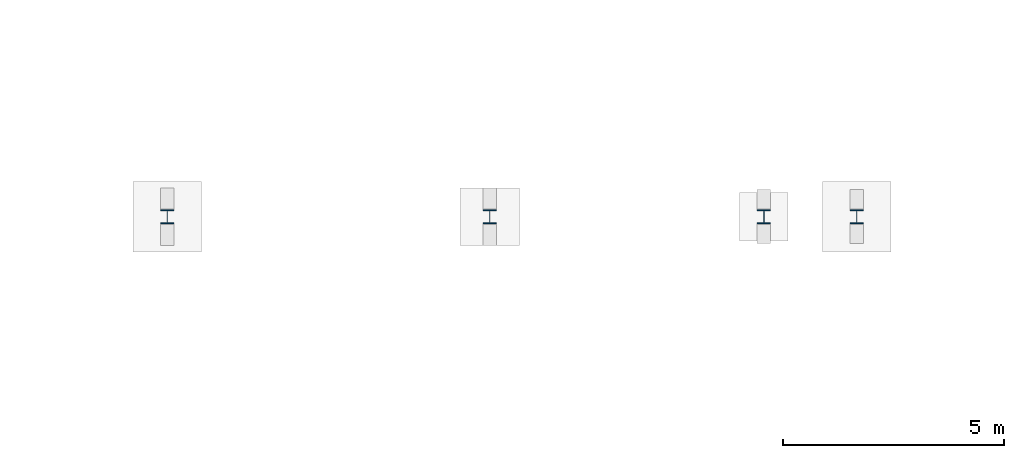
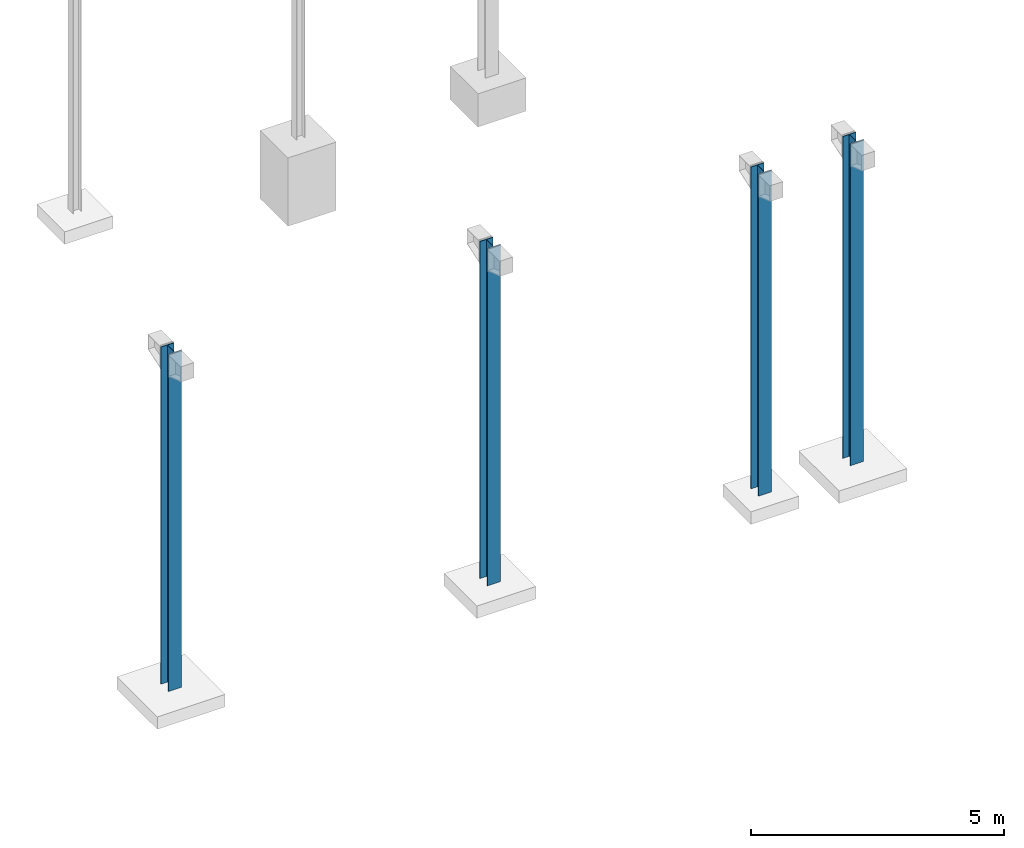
# One storey, part 39 of 59: 4 columns.
"""IFC2X3 building model written with IfcOpenShell, lengths in metres."""

import ifcopenshell
import ifcopenshell.guid

model = None  # the IFC model being written
_history = None  # IfcOwnerHistory: only IFC2X3 demands one
_inside = {}  # id of a spatial element -> (the spatial element, [elements in it])
_under = {}  # id of a project, library or spatial element -> (it, [spatial elements below it])
_declared = {}  # id of a project -> (the project, [libraries it declares])
_typed = {}  # id of a type object -> (the type object, [elements of that type])
_made_of = {}  # id of a material, layer set ... -> (it, [elements and type objects made of it])


def new_model(schema):
    """Start an empty IFC model of exactly this schema.

    Asked for "IFC4X3", IfcOpenShell would pick the latest addendum, in which some entities
    have other attributes; the version numbers below select the first issue.
    IFC2X3 requires an IfcOwnerHistory on every rooted entity: one is made here for all.
    """
    global model, _history
    if schema == "IFC4X3":
        model = ifcopenshell.file(schema_version=(4, 3, 0, 0))
    else:
        model = ifcopenshell.file(schema=schema)
    _inside.clear()
    _under.clear()
    _declared.clear()
    _typed.clear()
    _made_of.clear()
    _history = None
    if model.schema == "IFC2X3":
        org = make("IfcOrganization", Name="unknown")
        user = make(
            "IfcPersonAndOrganization",
            ThePerson=make("IfcPerson", FamilyName="unknown"),
            TheOrganization=org,
        )
        app = make(
            "IfcApplication",
            ApplicationDeveloper=org,
            Version="unknown",
            ApplicationFullName="unknown",
            ApplicationIdentifier="unknown",
        )
        _history = make(
            "IfcOwnerHistory",
            OwningUser=user,
            OwningApplication=app,
            ChangeAction="ADDED",
            CreationDate=0,
        )
    return model


def make(cls, **values):
    """One entity of the class cls with the attributes given. An attribute that is None is left unset."""
    return model.create_entity(
        cls, **{name: value for name, value in values.items() if value is not None}
    )


def entity(cls, *values):
    """Any entity or typed value of the class cls, its attributes in the order of the schema. None: left unset."""
    e = model.create_entity(cls)
    for i, value in enumerate(values):
        if value is not None:
            e[i] = value
    return e


def rooted(cls, **values):
    """An entity with a GlobalId (a new one), such as an element, a storey or a relation."""
    return make(cls, GlobalId=ifcopenshell.guid.new(), OwnerHistory=_history, **values)


def si_unit(unit_type, name, prefix=None):
    """IfcSIUnit, for example si_unit("LENGTHUNIT", "METRE", prefix="MILLI")."""
    return make("IfcSIUnit", UnitType=unit_type, Prefix=prefix, Name=name)


def converted_unit(unit_type, name, factor, base, dimensions=None, offset=None):
    """IfcConversionBasedUnit, such as the inch: factor (a typed value) times the base unit."""
    return make(
        "IfcConversionBasedUnit"
        if offset is None
        else "IfcConversionBasedUnitWithOffset",
        ConversionOffset=offset,
        Dimensions=None
        if dimensions is None
        else entity("IfcDimensionalExponents", *dimensions),
        UnitType=unit_type,
        Name=name,
        ConversionFactor=make(
            "IfcMeasureWithUnit", ValueComponent=factor, UnitComponent=base
        ),
    )


def derived_unit(unit_type, elements):
    """IfcDerivedUnit: a product of units, each with its exponent."""
    return make(
        "IfcDerivedUnit",
        Elements=[
            make("IfcDerivedUnitElement", Unit=unit, Exponent=power)
            for unit, power in elements
        ],
        UnitType=unit_type,
    )


def assignment(units):
    """IfcUnitAssignment: the units of a project."""
    return None if units is None else make("IfcUnitAssignment", Units=units)


def point(xyz):
    """IfcCartesianPoint."""
    return None if xyz is None else make("IfcCartesianPoint", Coordinates=xyz)


def direction(xyz):
    """IfcDirection."""
    return None if xyz is None else make("IfcDirection", DirectionRatios=xyz)


def frame(location, z_axis=None, x_axis=None):
    """IfcAxis2Placement3D, a coordinate frame: its origin and axes. An axis left out is left unset."""
    return make(
        "IfcAxis2Placement3D",
        Location=point(location),
        Axis=direction(z_axis),
        RefDirection=direction(x_axis),
    )


def origin():
    """The frame at (0, 0, 0) with its axes left unset."""
    return frame((0.0, 0.0, 0.0))


def origin_with_axes():
    """The frame at (0, 0, 0) with the z axis (0, 0, 1) and the x axis (1, 0, 0) written out."""
    return frame((0.0, 0.0, 0.0), z_axis=(0.0, 0.0, 1.0), x_axis=(1.0, 0.0, 0.0))


def place(relative_to, where):
    """IfcLocalPlacement: puts the frame where relative to a parent placement (None: the world)."""
    return make(
        "IfcLocalPlacement", PlacementRelTo=relative_to, RelativePlacement=where
    )


def context(
    kind, dimensions, precision=None, world=None, true_north=None, identifier=None
):
    """IfcGeometricRepresentationContext, for example the 3D "Model" context."""
    return make(
        "IfcGeometricRepresentationContext",
        ContextIdentifier=identifier,
        ContextType=kind,
        CoordinateSpaceDimension=dimensions,
        Precision=precision,
        WorldCoordinateSystem=world,
        TrueNorth=true_north,
    )


def subcontext(parent, identifier, kind, view, scale=None):
    """IfcGeometricRepresentationSubContext, for example "Body" below "Model"."""
    return make(
        "IfcGeometricRepresentationSubContext",
        ContextIdentifier=identifier,
        ContextType=kind,
        ParentContext=parent,
        TargetScale=scale,
        TargetView=view,
    )


def project(units=None, contexts=None):
    """IfcProject with its units and contexts."""
    return rooted(
        "IfcProject",
        Name="project",
        RepresentationContexts=contexts,
        UnitsInContext=assignment(units),
    )


def spatial(cls, under=None, at=None, **own):
    """A site, building, storey or space (cls), placed at a placement, below another one or the project."""
    s = rooted(cls, ObjectPlacement=at, **own)
    if under is not None:
        _under.setdefault(under.id(), (under, []))[1].append(s)
    return s


def polyline(points):
    """IfcPolyline through the points."""
    return make("IfcPolyline", Points=[point(p) for p in points])


def outline(outer, holes=None, kind="AREA"):
    """IfcArbitraryClosedProfileDef: a profile drawn as a closed curve; with holes, ...WithVoids."""
    if holes is None:
        return make("IfcArbitraryClosedProfileDef", ProfileType=kind, OuterCurve=outer)
    return make(
        "IfcArbitraryProfileDefWithVoids",
        ProfileType=kind,
        OuterCurve=outer,
        InnerCurves=holes,
    )


def extrude(swept, where, along, depth):
    """IfcExtrudedAreaSolid: the profile swept, set in the frame where, extruded along a direction by depth."""
    return make(
        "IfcExtrudedAreaSolid",
        SweptArea=swept,
        Position=where,
        ExtrudedDirection=direction(along),
        Depth=depth,
    )


def shape(context_of_items, identifier, shape_type, items):
    """IfcShapeRepresentation: the items that make up one representation, for example the "Body"."""
    return make(
        "IfcShapeRepresentation",
        ContextOfItems=context_of_items,
        RepresentationIdentifier=identifier,
        RepresentationType=shape_type,
        Items=items,
    )


def material(Name=None, Category=None):
    """IfcMaterial."""
    return make("IfcMaterial", Name=Name, Category=Category)


def made_of(thing, what):
    """Note that an element or type object is made of a material, layer set ...; save() writes the relation."""
    if what is not None:
        _made_of.setdefault(what.id(), (what, []))[1].append(thing)
    return thing


def element(
    cls,
    number,
    at=None,
    inside=None,
    cuts=None,
    type_object=None,
    material=None,
    context=None,
    identifier="Body",
    shape_type=None,
    held_by="IfcProductDefinitionShape",
    body=None,
    shapes=None,
    **own,
):
    """One element of the class cls, such as IfcWall. Its Tag is "e" and its number.

    at: its placement. inside: the storey or other place that contains it. cuts: it is an
    opening in that element (IfcRelVoidsElement). A single representation is given by context,
    identifier, shape_type and body (its items); several are given by shapes. held_by: the class
    of the entity that holds the representations. save() writes the other relations.
    """
    e = rooted(cls, Tag="e%d" % number, ObjectPlacement=at, **own)
    if body is not None:
        shapes = [shape(context, identifier, shape_type, body)]
    if shapes is not None:
        e.Representation = make(held_by, Representations=shapes)
    if inside is not None:
        _inside.setdefault(inside.id(), (inside, []))[1].append(e)
    if cuts is not None:
        rooted(
            "IfcRelVoidsElement", RelatingBuildingElement=cuts, RelatedOpeningElement=e
        )
    if type_object is not None:
        _typed.setdefault(type_object.id(), (type_object, []))[1].append(e)
    return made_of(e, material)


def aggregate(whole, parts):
    """IfcRelAggregates: a whole, such as a stair, and the parts it consists of."""
    return rooted("IfcRelAggregates", RelatingObject=whole, RelatedObjects=parts)


def save(model, path):
    """Write the relations noted so far, then the file.

    IfcRelAggregates (storeys below a building ...), IfcRelContainedInSpatialStructure (elements
    in a storey), IfcRelDefinesByType, IfcRelAssociatesMaterial and IfcRelDeclares: one each for
    every whole, place, type object, material and project.
    """
    for whole, parts in _under.values():
        aggregate(whole, parts)
    for where, things in _inside.values():
        rooted(
            "IfcRelContainedInSpatialStructure",
            RelatedElements=things,
            RelatingStructure=where,
        )
    for kind, things in _typed.values():
        rooted("IfcRelDefinesByType", RelatedObjects=things, RelatingType=kind)
    for what, things in _made_of.values():
        rooted("IfcRelAssociatesMaterial", RelatedObjects=things, RelatingMaterial=what)
    for by, libraries in _declared.values():
        rooted("IfcRelDeclares", RelatingContext=by, RelatedDefinitions=libraries)
    model.write(path)


model = new_model("IFC2X3")

# Units and contexts
model_context = context("Model", 3, precision=1e-05, world=origin())
body_context = subcontext(model_context, "Body", "Model", "MODEL_VIEW")
ifc_project = project(units=[si_unit("LENGTHUNIT", "METRE"), si_unit("AREAUNIT", "SQUARE_METRE"), si_unit("VOLUMEUNIT", "CUBIC_METRE"), si_unit("MASSUNIT", "GRAM", prefix="KILO"), converted_unit("PLANEANGLEUNIT", "DEGREE", entity("IfcPlaneAngleMeasure", 0.0174532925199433), si_unit("PLANEANGLEUNIT", "RADIAN"), dimensions=[0, 0, 0, 0, 0, 0, 0]), derived_unit("THERMALTRANSMITTANCEUNIT", [(si_unit("POWERUNIT", "WATT"), 1), (si_unit("THERMODYNAMICTEMPERATUREUNIT", "KELVIN"), -1), (si_unit("LENGTHUNIT", "METRE"), -2)]), derived_unit("VOLUMETRICFLOWRATEUNIT", [(si_unit("LENGTHUNIT", "METRE"), 3), (converted_unit("TIMEUNIT", "hour", entity("IfcTimeMeasure", 3600.0), si_unit("TIMEUNIT", "SECOND"), dimensions=[0, 0, 1, 0, 0, 0, 0]), -1), (si_unit("LENGTHUNIT", "METRE"), -1)])], contexts=[model_context])

# Site, building, storey
site_placement = place(None, origin())
site = spatial("IfcSite", under=ifc_project, at=site_placement, Name="TWP_Speiseverteilzentrum SBW VZ II", CompositionType="ELEMENT")
building_placement = place(site_placement, origin())
building = spatial("IfcBuilding", under=site, at=building_placement, Name="Speiseverteilzentrum SBW VZ II", CompositionType="ELEMENT")
storey_placement = place(building_placement, frame((0.0, 0.0, 1.7307)))
storey = spatial("IfcBuildingStorey", under=building, at=storey_placement, Name="EG_Produktion_FFB", CompositionType="ELEMENT", Elevation=1.7307)

# Columns
ifc_material_1 = material(Name="S235")
column_1_placement = place(storey_placement, frame((99.9753393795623, 70.2451031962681, -1.95)))
element("IfcColumn", 1, at=column_1_placement, inside=storey, material=ifc_material_1, Name="Stahlstütze", context=body_context, shape_type="SweptSolid", body=[
    extrude(outline(polyline([(0.0, 0.0), (0.3, 0.0), (0.3, 0.0155), (0.1545, 0.0155), (0.1545, 0.2945), (0.3, 0.2945), (0.3, 0.31), (0.0, 0.31), (0.0, 0.2945), (0.1455, 0.2945), (0.1455, 0.0155), (0.0, 0.0155), (0.0, 0.0)])), origin_with_axes(), (0.0, 0.0, 1.0), 8.1393),
])
ifc_material_2 = material(Name="S235")
column_2_placement = place(storey_placement, frame((107.260000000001, 70.2451031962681, -1.95)))
element("IfcColumn", 2, at=column_2_placement, inside=storey, material=ifc_material_2, Name="Stahlstütze", context=body_context, shape_type="SweptSolid", body=[
    extrude(outline(polyline([(0.0, 0.0), (0.3, 0.0), (0.3, 0.0155), (0.1545, 0.0155), (0.1545, 0.2945), (0.3, 0.2945), (0.3, 0.31), (0.0, 0.31), (0.0, 0.2945), (0.1455, 0.2945), (0.1455, 0.0155), (0.0, 0.0155), (0.0, 0.0)])), origin_with_axes(), (0.0, 0.0, 1.0), 8.1393),
])
ifc_material_3 = material(Name="S235")
column_3_placement = place(storey_placement, frame((113.45, 70.2451031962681, -1.95)))
element("IfcColumn", 3, at=column_3_placement, inside=storey, material=ifc_material_3, Name="Stahlstütze", context=body_context, shape_type="SweptSolid", body=[
    extrude(outline(polyline([(0.0, 0.0), (0.3, 0.0), (0.3, 0.0155), (0.1545, 0.0155), (0.1545, 0.2945), (0.3, 0.2945), (0.3, 0.31), (0.0, 0.31), (0.0, 0.2945), (0.1455, 0.2945), (0.1455, 0.0155), (0.0, 0.0155), (0.0, 0.0)])), origin_with_axes(), (0.0, 0.0, 1.0), 7.7693),
])
ifc_material_4 = material(Name="S235")
column_4_placement = place(storey_placement, frame((115.55, 70.2451031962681, -1.95)))
element("IfcColumn", 4, at=column_4_placement, inside=storey, material=ifc_material_4, Name="Stahlstütze", context=body_context, shape_type="SweptSolid", body=[
    extrude(outline(polyline([(0.0, 0.0), (0.3, 0.0), (0.3, 0.0155), (0.1545, 0.0155), (0.1545, 0.2945), (0.3, 0.2945), (0.3, 0.31), (0.0, 0.31), (0.0, 0.2945), (0.1455, 0.2945), (0.1455, 0.0155), (0.0, 0.0155), (0.0, 0.0)])), origin_with_axes(), (0.0, 0.0, 1.0), 7.7693),
])

save(model, "model.ifc")
